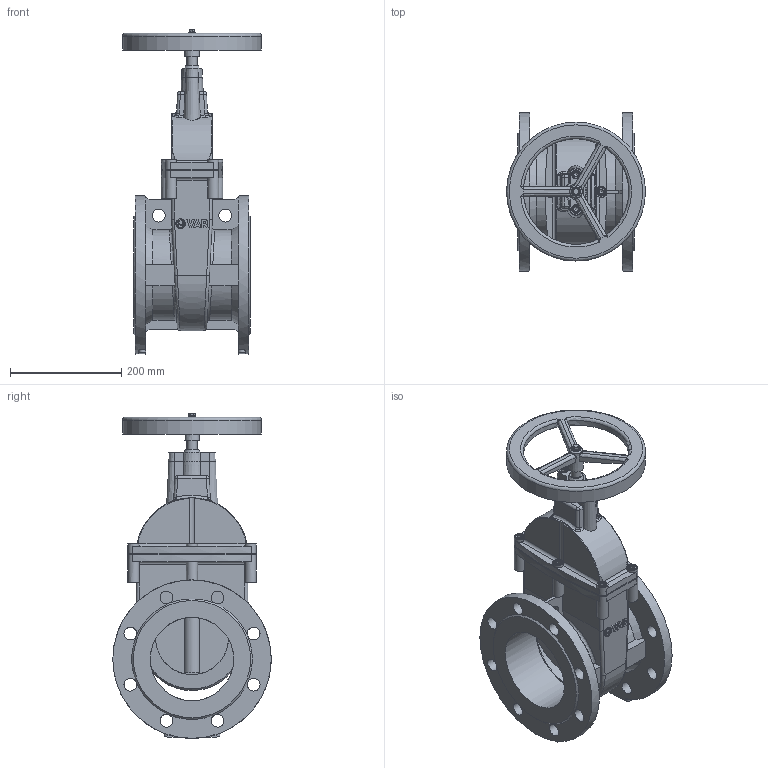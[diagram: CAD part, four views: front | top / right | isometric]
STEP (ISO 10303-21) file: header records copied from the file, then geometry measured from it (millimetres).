
FILE_DESCRIPTION(('STEP AP242'), '1');
FILE_NAME('青溻桄赅', '', ('UNSPECIFIED'), ('UNSPECIFIED'), 'C3D Converter', 'C3D Toolkit', '');
FILE_SCHEMA(('AP242_MANAGED_MODEL_BASED_3D_ENGINEERING_MIM_LF { 1 0 10303 442 1 1 4 }'));
Length unit declared in the file: millimetre
Assembly tree (17 placements, depth 2):
  (unnamed)
    (unnamed)
    (unnamed)
    (unnamed)
    (unnamed)
    (unnamed)  x2
    (unnamed)
    (unnamed)
    (unnamed)  x6
    (unnamed)  x2
    (unnamed)
Bounding box: 250 x 285 x 584.1 mm (x, y, z)
Volume: 5106871.3 mm3; surface area: 1122378.2 mm2
Topology: 20 solids, 20 shells, 952 faces, 2395 edges, 1517 vertices
Faces by surface type: plane 474, cylinder 195, extrusion 123, bspline 70, cone 69, torus 21
Full cylindrical faces by diameter (mm): 6 x3, 8 x8, 10 x30, 16 x16, 17.508 x1, 18 x7, 23 x16, 23.208 x2, 30.667 x4, 131 x2, 150 x4, 180.4 x4, 188 x1, 190 x1, 200 x1, 240 x1, 250 x1, 285 x2
Entity records: 42649 total; most frequent: CARTESIAN_POINT 21482, ORIENTED_EDGE 3888, DIRECTION 3116, EDGE_CURVE 1944, VERTEX_POINT 1319, EDGE_LOOP 1069, AXIS2_PLACEMENT_3D 1046, VECTOR 1024
